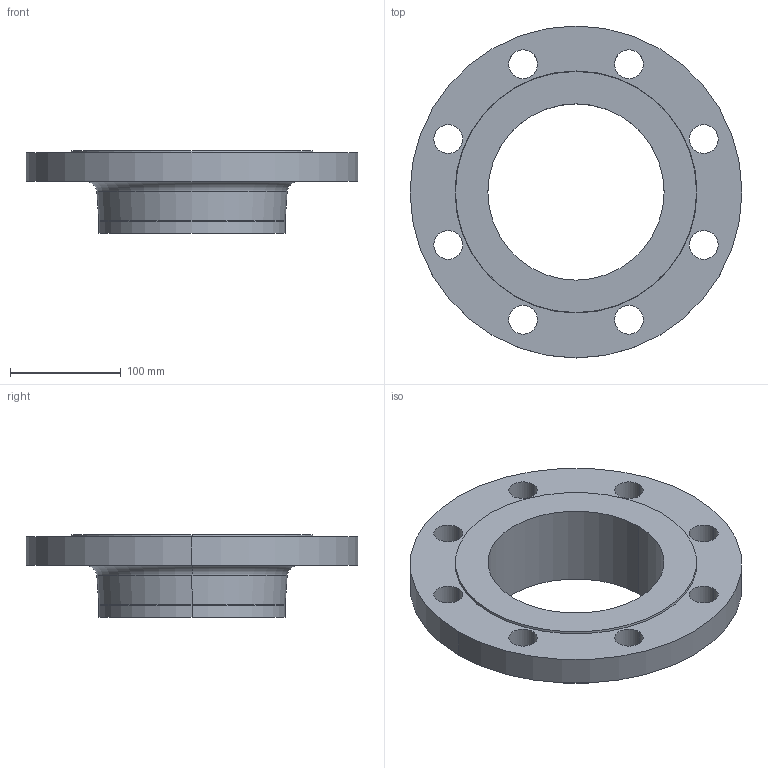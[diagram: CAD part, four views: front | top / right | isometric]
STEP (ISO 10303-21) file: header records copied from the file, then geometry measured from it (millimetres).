
FILE_DESCRIPTION (( 'STEP AP214' ), '1' );
FILE_NAME ('PN40 DN150 Type 11 - Type B Face.STEP', '2019-01-05T00:11:43', ( '' ), ( '' ), 'SwSTEP 2.0', 'SolidWorks 2019', '' );
FILE_SCHEMA (( 'AUTOMOTIVE_DESIGN' ));
Length unit declared in the file: millimetre
Products named in the file (1): PN40 DN150 Type 11 - Type B Face
Bounding box: 300 x 300 x 75 mm (x, y, z)
Volume: 1387170 mm3; surface area: 195078.8 mm2
Topology: 1 solids, 1 shells, 34 faces, 84 edges, 54 vertices
Faces by surface type: cylinder 22, cone 4, torus 4, plane 4
Entity records: 1108 total; most frequent: DIRECTION 212, CARTESIAN_POINT 173, ORIENTED_EDGE 168, AXIS2_PLACEMENT_3D 93, EDGE_CURVE 84, CIRCLE 58, VERTEX_POINT 54, EDGE_LOOP 54
